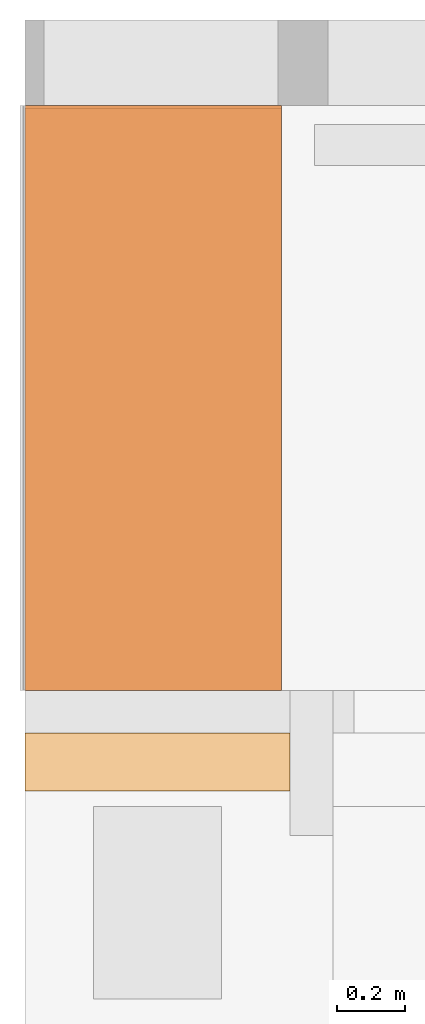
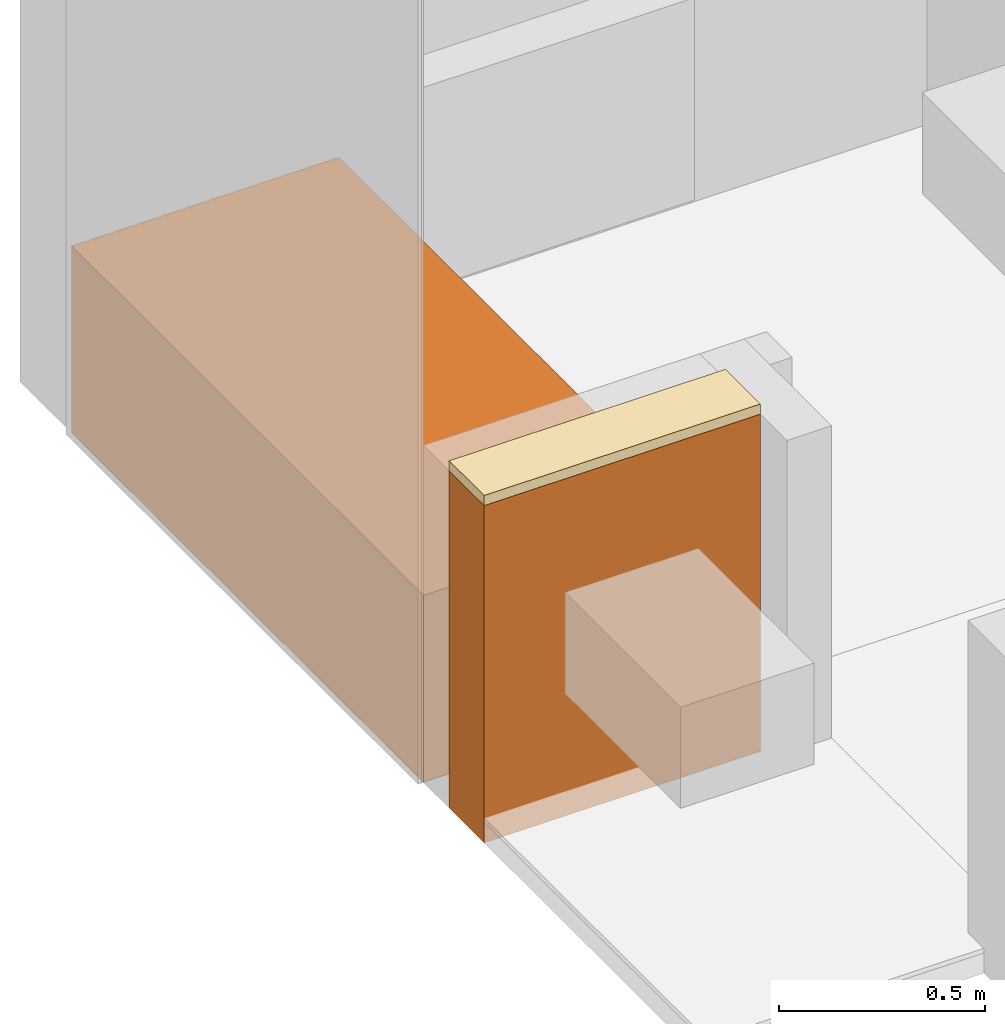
# One storey, part 4 of 4: 3 proxies, 1 covering.
"""IFC4 building model written with IfcOpenShell, lengths in metres."""

from ifc_helpers import new_model, entity, si_unit, converted_unit, derived_unit, frame, frame_2d, origin, origin_with_axes, place, context, subcontext, project, spatial, rectangle, extrude, faceted_brep, material, layer, layer_set, layer_usage, element, aggregate, save


model = new_model("IFC4")

# Units and contexts
model_context = context("Model", 3, precision=1e-05, world=origin())
body_context = subcontext(model_context, "Body", "Model", "MODEL_VIEW")
ifc_project = project(units=[si_unit("LENGTHUNIT", "METRE"), si_unit("AREAUNIT", "SQUARE_METRE"), si_unit("VOLUMEUNIT", "CUBIC_METRE"), si_unit("MASSUNIT", "GRAM", prefix="KILO"), converted_unit("PLANEANGLEUNIT", "DEGREE", entity("IfcPlaneAngleMeasure", 0.0174532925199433), si_unit("PLANEANGLEUNIT", "RADIAN"), dimensions=[0, 0, 0, 0, 0, 0, 0]), derived_unit("THERMALTRANSMITTANCEUNIT", [(si_unit("POWERUNIT", "WATT"), 1), (si_unit("THERMODYNAMICTEMPERATUREUNIT", "KELVIN"), -1), (si_unit("LENGTHUNIT", "METRE"), -2)]), derived_unit("VOLUMETRICFLOWRATEUNIT", [(si_unit("LENGTHUNIT", "METRE"), 3), (converted_unit("TIMEUNIT", "hour", entity("IfcTimeMeasure", 3600.0), si_unit("TIMEUNIT", "SECOND"), dimensions=[0, 0, 1, 0, 0, 0, 0]), -1), (si_unit("LENGTHUNIT", "METRE"), -1)])], contexts=[model_context])

# Site, building, storey
site_placement = place(None, origin())
site = spatial("IfcSite", under=ifc_project, at=site_placement, Name="Liegenschaft", CompositionType="ELEMENT")
building_placement = place(site_placement, origin())
building = spatial("IfcBuilding", under=site, at=building_placement, Name="Gebäude", CompositionType="ELEMENT")
storey_placement = place(building_placement, origin())
storey = spatial("IfcBuildingStorey", under=building, at=storey_placement, Name="Geschoss 01", CompositionType="ELEMENT", Elevation=0.0)

# Covering
ifc_material_1 = material(Name="Fliesen")
ifc_layer = layer(ifc_material_1, 0.03)
ifc_layer_set = layer_set([ifc_layer])
ifc_layer_usage = layer_usage(ifc_layer_set, "AXIS3", "POSITIVE", 0.0)
proxy_3_placement = place(storey_placement, frame((192.172586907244, 1.82241869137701, 0.0)))
covering_placement = place(proxy_3_placement, frame((-0.775, -0.17, 1.0)))
covering = element("IfcCovering", 1, at=covering_placement, inside=storey, material=ifc_layer_usage, PredefinedType="FLOORING", context=body_context, shape_type="SweptSolid", body=[
    extrude(rectangle(XDim=0.17, YDim=0.775, at=frame_2d((-0.3875, 0.085), x_axis=(0.0, 1.0))), frame((0.775, 0.17, 0.0), z_axis=(0.0, 0.0, -1.0), x_axis=(1.0, 0.0, 0.0)), (0.0, 0.0, -1.0), 0.03),
])

# Proxies
proxy_1_placement = place(storey_placement, frame((191.397586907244, 1.94741869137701, 0.0)))
element("IfcBuildingElementProxy", 2, at=proxy_1_placement, inside=storey, context=body_context, shape_type="Brep", body=[
    faceted_brep([(0.0, 1.70285628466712, 0.0), (0.0, 0.0, 0.0), (0.75, 0.0, 0.0), (0.75, 1.70285628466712, 0.0), (0.0, 0.0, 0.00100000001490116), (0.0, 1.70285628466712, 0.00100000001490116), (0.75, 1.70285628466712, 0.00100000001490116), (0.75, 0.0, 0.00100000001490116)], [[[0, 1, 2, 3]], [[4, 5, 6, 7]], [[1, 0, 5, 4]], [[2, 1, 4, 7]], [[3, 2, 7, 6]], [[0, 3, 6, 5]]], orient=[[False], [False], [False], [False], [False], [False]]),
])
proxy_2_placement = place(storey_placement, frame((191.397586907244, 1.94741869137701, 0.0)))
element("IfcBuildingElementProxy", 3, at=proxy_2_placement, inside=storey, context=body_context, shape_type="Brep", body=[
    faceted_brep([(0.75, 1.71, 0.0), (0.0, 1.71, 0.0), (0.0, 0.0, 0.0), (0.75, 0.0, 0.0), (0.0, 1.71, 0.555000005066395), (0.75, 1.71, 0.555000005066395), (0.75, 0.0, 0.555000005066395), (0.0, 0.0, 0.555000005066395)], [[[0, 1, 2, 3]], [[4, 5, 6, 7]], [[1, 0, 5, 4]], [[2, 1, 4, 7]], [[3, 2, 7, 6]], [[0, 3, 6, 5]]], orient=[[False], [False], [False], [False], [False], [False]]),
])

# Proxy
ifc_material_2 = material(Name="IW NFZ")
proxy_3 = element("IfcBuildingElementProxy", 4, at=proxy_3_placement, inside=storey, material=ifc_material_2, context=body_context, shape_type="SweptSolid", body=[
    extrude(rectangle(XDim=0.775, YDim=0.17, at=frame_2d((-0.3875, -0.085), x_axis=(-1.0, 0.0))), origin_with_axes(), (0.0, 0.0, 1.0), 1.0),
])

aggregate(proxy_3, [covering])

save(model, "model.ifc")
